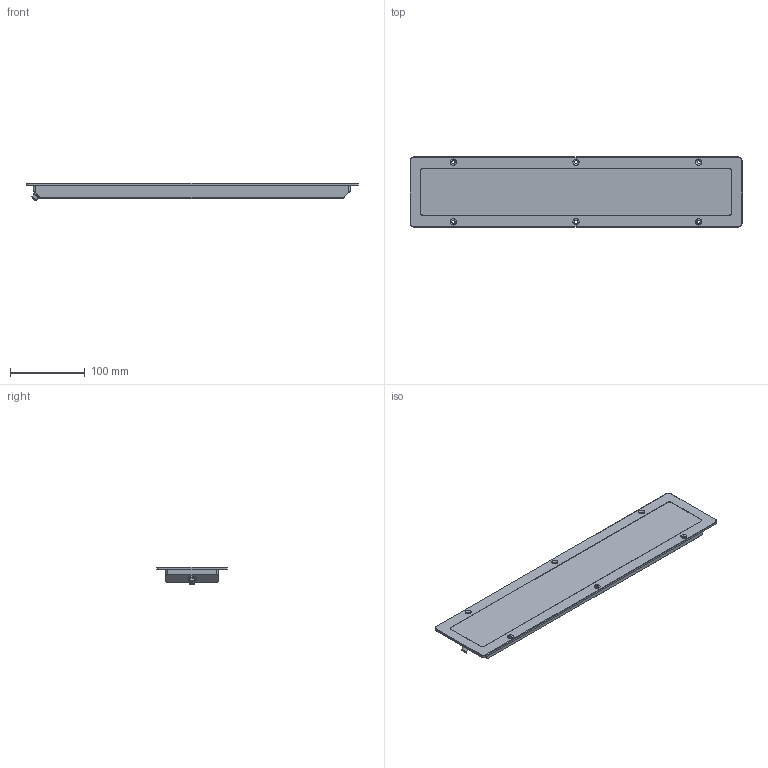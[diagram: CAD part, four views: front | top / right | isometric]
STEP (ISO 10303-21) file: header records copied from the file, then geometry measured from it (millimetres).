
FILE_DESCRIPTION(/* description */ (''),/* implementation_level */ '2;1');
FILE_NAME(/* name */ 'G:\Daten\Leuchten\03100 - LED EBLT\03 - CAD\Einbauleuchte T450\led-aufbauleuchte-eblt-450.stp',/* time_stamp */ '2023-04-25T11:45:43+02:00',/* author */ ('gzahn'),/* organization */ (''),/* preprocessor_version */ 'ST-DEVELOPER v19',/* originating_system */ 'Autodesk Inventor 2023',/* authorisation */ '');
FILE_SCHEMA (('AUTOMOTIVE_DESIGN { 1 0 10303 214 3 1 1 }'));
Length unit declared in the file: millimetre
Products named in the file (1): led-aufbauleuchte-eblt-450
Bounding box: 444 x 94 x 23.39 mm (x, y, z)
Volume: 617014.2 mm3; surface area: 106285.2 mm2
Topology: 1 solids, 1 shells, 112 faces, 260 edges, 161 vertices
Faces by surface type: plane 58, cylinder 28, cone 22, bspline 4
Full cylindrical faces by diameter (mm): 1 x4, 4.5 x6, 5.8 x1, 8 x1
Entity records: 3413 total; most frequent: CARTESIAN_POINT 648, DIRECTION 558, ORIENTED_EDGE 516, EDGE_CURVE 258, AXIS2_PLACEMENT_3D 197, LINE 164, VECTOR 164, VERTEX_POINT 161
